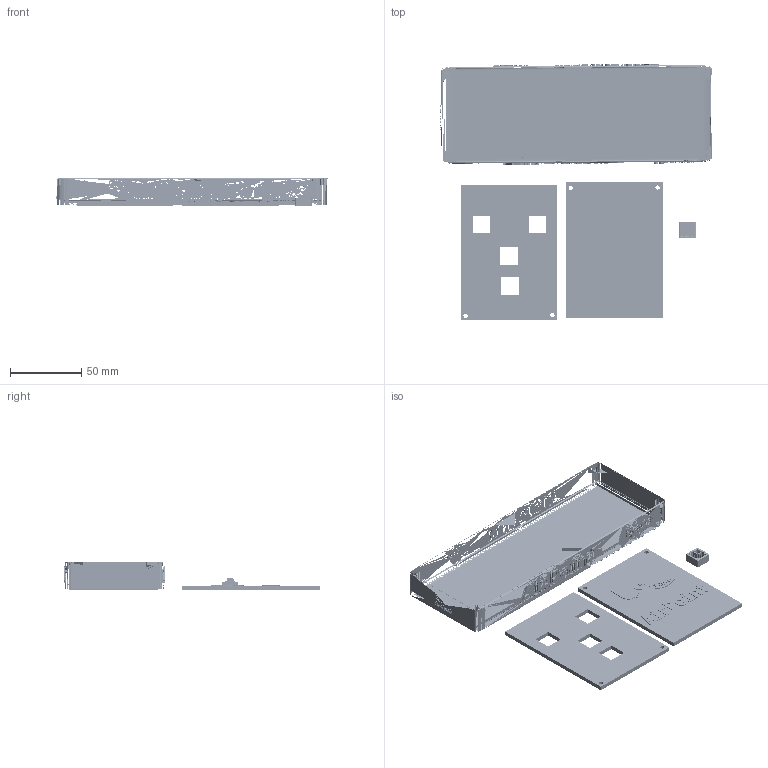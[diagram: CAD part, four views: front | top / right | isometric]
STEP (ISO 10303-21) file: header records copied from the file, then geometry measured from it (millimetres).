
FILE_DESCRIPTION(('STEP AP214'),'1');
FILE_NAME('result.stp','2026-06-08T18:57:05',(' '),(' '),'Spatial InterOp 3D',' ',' ');
FILE_SCHEMA(('automotive_design'));
Length unit declared in the file: metre
Products named in the file (1): Root
Bounding box: 191.26 x 179.77 x 20 mm (x, y, z)
Surface area: 35526.5 mm2 (no closed solid volume)
Topology: 0 solids, 59368 shells, 59368 faces, 178076 edges, 29660 vertices
Faces by surface type: plane 59368
Entity records: 1840384 total; most frequent: DIRECTION 296842, ORIENTED_EDGE 178104, EDGE_CURVE 178104, LINE 178104, VECTOR 178104, AXIS2_PLACEMENT_3D 59369, STYLED_ITEM 59368, PRESENTATION_STYLE_ASSIGNMENT 59368
